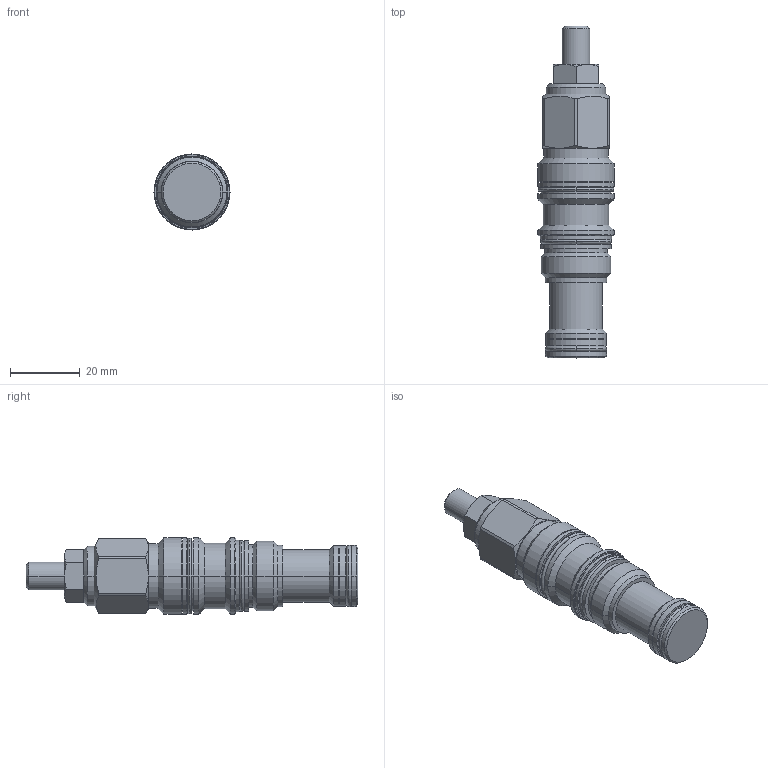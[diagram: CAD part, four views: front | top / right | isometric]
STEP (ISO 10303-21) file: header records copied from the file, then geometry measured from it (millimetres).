
FILE_DESCRIPTION( ( '' ), '1' );
FILE_NAME( 'M:/ZZ/_Marketing/Produkteportfolio/CLHV ab Lager/CLHV 3 T11A C C(D,E)...-V.stp', '2021-08-19T08:44:04', ( '' ), ( '' ), ' ', ' ', ' ' );
FILE_SCHEMA( ( 'automotive_design' ) );
Length unit declared in the file: millimetre
Products named in the file (1): 1
Bounding box: 21.8 x 95 x 21.8 mm (x, y, z)
Volume: 23100.3 mm3; surface area: 7020.2 mm2
Topology: 1 solids, 1 shells, 147 faces, 325 edges, 195 vertices
Faces by surface type: cylinder 52, plane 47, cone 36, torus 12
Entity records: 7816 total; most frequent: DIRECTION 758, CARTESIAN_POINT 732, STYLED_ITEM 668, PRESENTATION_STYLE_ASSIGNMENT 668, COLOUR_RGB 668, ORIENTED_EDGE 650, EDGE_CURVE 325, CURVE_STYLE 325
